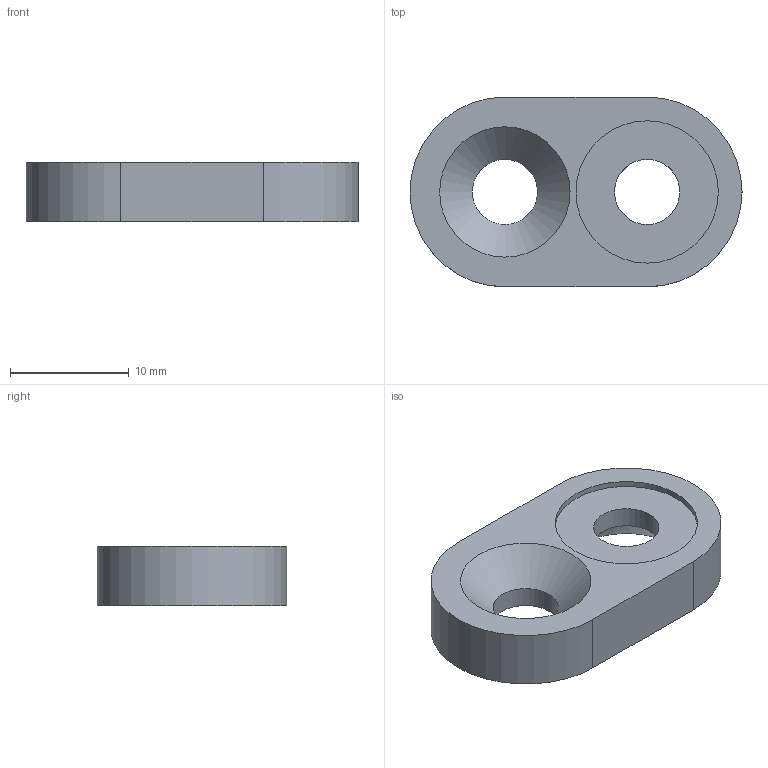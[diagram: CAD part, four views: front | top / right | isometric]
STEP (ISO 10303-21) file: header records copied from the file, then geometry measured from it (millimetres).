
FILE_DESCRIPTION((''),'2;1');
FILE_NAME('E:\catalogue and flyer\Profile catalogue 2015\Accessories ACC info\Accessories ACC step file 31Mar16\ACC-CHFS.stp','2016-04-07T11:57:29',('h029'),(''),'Autodesk Inventor 11','Autodesk Inventor 11','');
FILE_SCHEMA(('AUTOMOTIVE_DESIGN { 1 0 10303 214 1 1 1 1 }'));
Length unit declared in the file: millimetre
Products named in the file (1): 0.0.418.81_1
Bounding box: 28 x 16 x 5 mm (x, y, z)
Volume: 1464.2 mm3; surface area: 1219.6 mm2
Topology: 1 solids, 1 shells, 14 faces, 28 edges, 18 vertices
Faces by surface type: cylinder 6, plane 6, bspline 1, cone 1
Full cylindrical faces by diameter (mm): 5.5 x2, 12 x2
Entity records: 384 total; most frequent: CARTESIAN_POINT 72, DIRECTION 64, ORIENTED_EDGE 44, AXIS2_PLACEMENT_3D 28, EDGE_LOOP 26, EDGE_CURVE 22, VERTEX_POINT 18, CIRCLE 14
